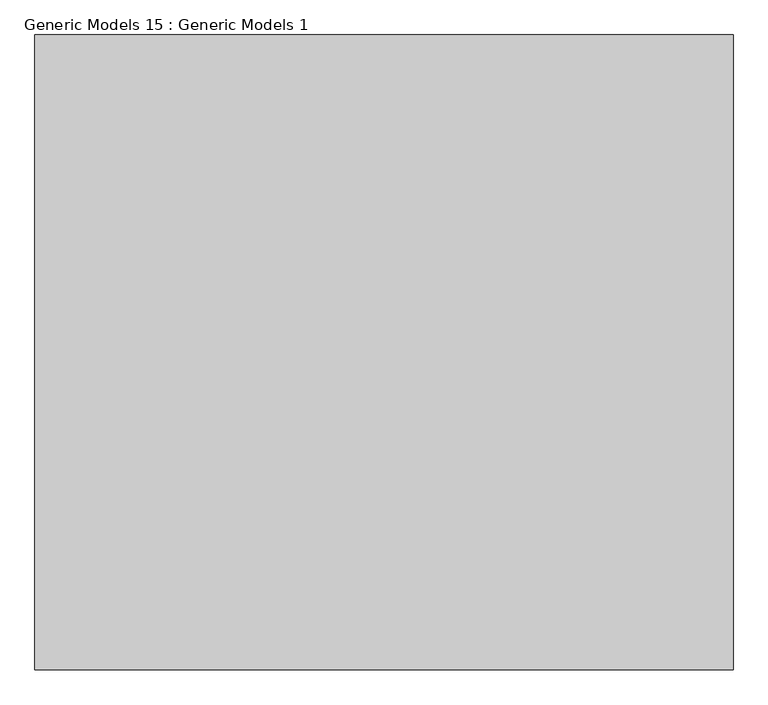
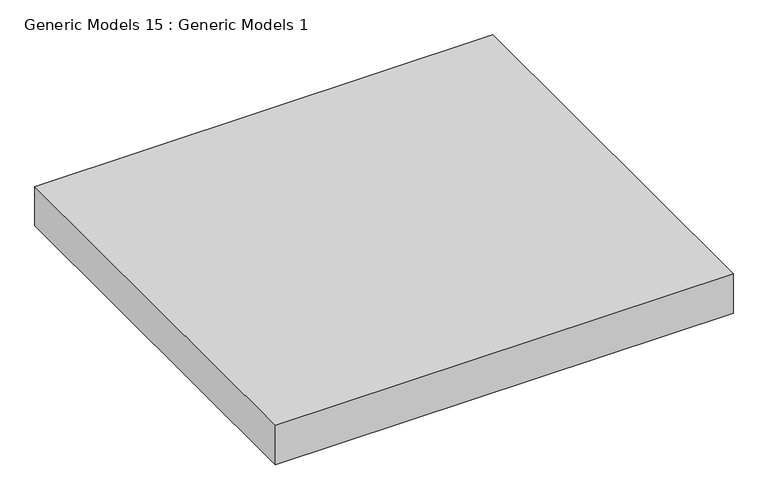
"""IFC4 building model written with IfcOpenShell, lengths in millimetres: proxy geometry, Generic Models 15 : Generic Models 1."""

from ifc_helpers import new_model, si_unit, origin, origin_with_axes, place, context, project, spatial, polyline, outline, extrude, source, transform, mapped, element, save


def generic_models_15_generic_models_1_2de620d3(model_context):
    return source(origin(), model_context, "Body", "SweptSolid", [
        extrude(outline(polyline([(4437.1851171, -7486.5772826), (4437.1851171, -6486.5772826), (5537.1851171, -6486.5772826), (5537.1851171, -7486.5772826), (4437.1851171, -7486.5772826)])), origin_with_axes(), (0.0, 0.0, 1.0), 100.0),
    ])


if __name__ == "__main__":
    model = new_model("IFC4")
    model_context = context("Model", 3, world=origin())
    ifc_project = project(units=[si_unit("LENGTHUNIT", "METRE", prefix="MILLI")], contexts=[model_context])
    site = spatial("IfcSite", under=ifc_project)
    building = spatial("IfcBuilding", under=site)
    placement = place(None, origin())
    generic_models_15_generic_models_1_shape = generic_models_15_generic_models_1_2de620d3(model_context)
    element("IfcBuildingElementProxy", 1, Name="Generic Models 15 : Generic Models 1", ObjectType="Generic Models 15 : Generic Models 1", at=placement, inside=building, context=model_context, shape_type="MappedRepresentation", body=[
        mapped(generic_models_15_generic_models_1_shape, transform((0.0, 0.0, 0.0), x_axis=(1.0, 0.0, 0.0), y_axis=(0.0, 1.0, 0.0), z_axis=(0.0, 0.0, 1.0))),
    ])
    save(model, "model.ifc")
